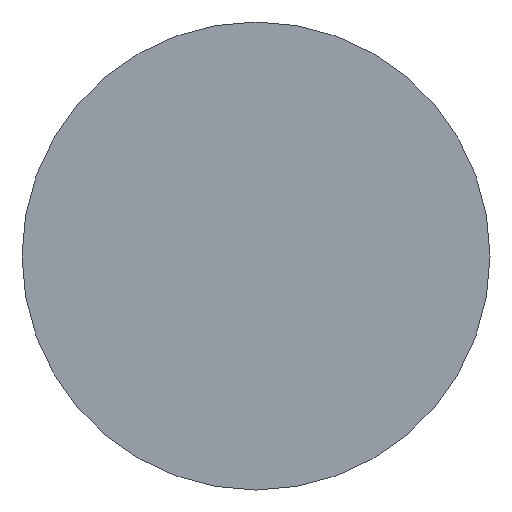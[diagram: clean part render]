
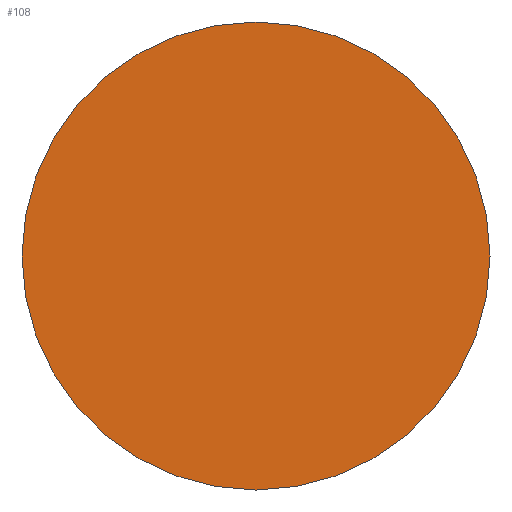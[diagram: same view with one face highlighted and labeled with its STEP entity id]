
A CAD part, left-side view. The second image highlights one B-rep face of the part: STEP entity #108.
In plain terms, the highlighted planar face has unit normal (-1, 0, 0).
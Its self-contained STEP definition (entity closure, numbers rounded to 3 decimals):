
#9 = FACE_OUTER_BOUND ( 'NONE', #41, .T. ) ;
#12 = AXIS2_PLACEMENT_3D ( 'NONE', #176, #63, #133 ) ;
#21 = CIRCLE ( 'NONE', #140, 1.25 ) ;
#22 = VERTEX_POINT ( 'NONE', #213 ) ;
#41 = EDGE_LOOP ( 'NONE', ( #76, #167 ) ) ;
#48 = CARTESIAN_POINT ( 'NONE',  ( 0., 0., 0. ) ) ;
#63 = DIRECTION ( 'NONE',  ( 1., 0., 0. ) ) ;
#70 = PLANE ( 'NONE',  #12 ) ;
#76 = ORIENTED_EDGE ( 'NONE', *, *, #214, .T. ) ;
#83 = DIRECTION ( 'NONE',  ( -1., 0., 0. ) ) ;
#108 = ADVANCED_FACE ( 'NONE', ( #9 ), #70, .F. ) ;
#113 = EDGE_CURVE ( 'NONE', #229, #22, #21, .T. ) ;
#133 = DIRECTION ( 'NONE',  ( 0., 0., -1. ) ) ;
#140 = AXIS2_PLACEMENT_3D ( 'NONE', #178, #245, #262 ) ;
#167 = ORIENTED_EDGE ( 'NONE', *, *, #113, .T. ) ;
#176 = CARTESIAN_POINT ( 'NONE',  ( 0., 0., 0. ) ) ;
#178 = CARTESIAN_POINT ( 'NONE',  ( 0., 0., 0. ) ) ;
#196 = CARTESIAN_POINT ( 'NONE',  ( 0., 0., -1.25 ) ) ;
#198 = CIRCLE ( 'NONE', #204, 1.25 ) ;
#204 = AXIS2_PLACEMENT_3D ( 'NONE', #48, #83, #242 ) ;
#213 = CARTESIAN_POINT ( 'NONE',  ( 0., 0., 1.25 ) ) ;
#214 = EDGE_CURVE ( 'NONE', #22, #229, #198, .T. ) ;
#229 = VERTEX_POINT ( 'NONE', #196 ) ;
#242 = DIRECTION ( 'NONE',  ( 0., 0., 1. ) ) ;
#245 = DIRECTION ( 'NONE',  ( -1., 0., 0. ) ) ;
#262 = DIRECTION ( 'NONE',  ( 0., 0., 1. ) ) ;
